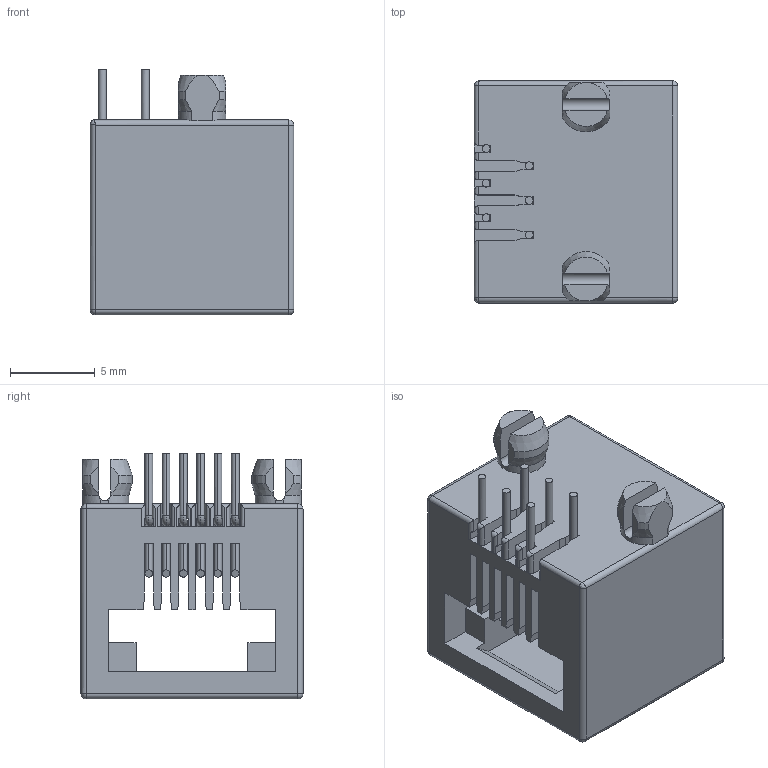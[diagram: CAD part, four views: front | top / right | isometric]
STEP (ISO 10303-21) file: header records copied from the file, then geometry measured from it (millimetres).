
FILE_DESCRIPTION((''),'2;1');
FILE_NAME('5324MINI-1X1-6P6C','2022-10-12T09:52:35',('HQW'),(''),'CREO PARAMETRIC BY PTC INC, 2021424','CREO PARAMETRIC BY PTC INC, 2021424','');
FILE_SCHEMA(('CONFIG_CONTROL_DESIGN','GEOMETRIC_VALIDATION_PROPERTIES_MIM'));
Length unit declared in the file: millimetre
Products named in the file (1): 5324MINI-1X1-6P6C
Bounding box: 12 x 13.1 x 14.5 mm (x, y, z)
Volume: 859.5 mm3; surface area: 1578.1 mm2
Topology: 1 solids, 1 shells, 342 faces, 1015 edges, 650 vertices
Faces by surface type: plane 190, cylinder 108, torus 24, cone 12, sphere 6, bspline 2
Entity records: 11939 total; most frequent: CARTESIAN_POINT 2642, ORIENTED_EDGE 2030, DIRECTION 1867, EDGE_CURVE 1015, VECTOR 651, LINE 651, VERTEX_POINT 650, AXIS2_PLACEMENT_3D 608
